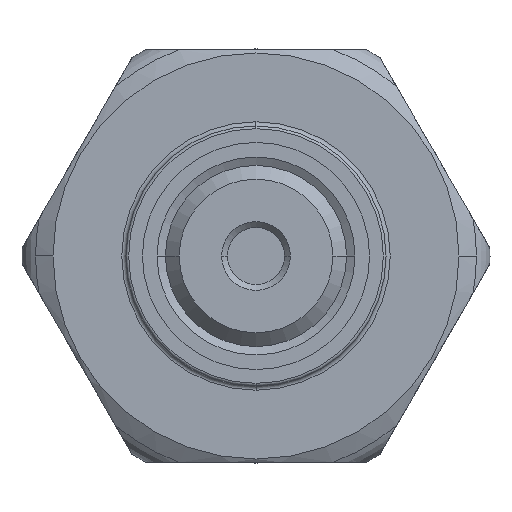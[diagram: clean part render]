
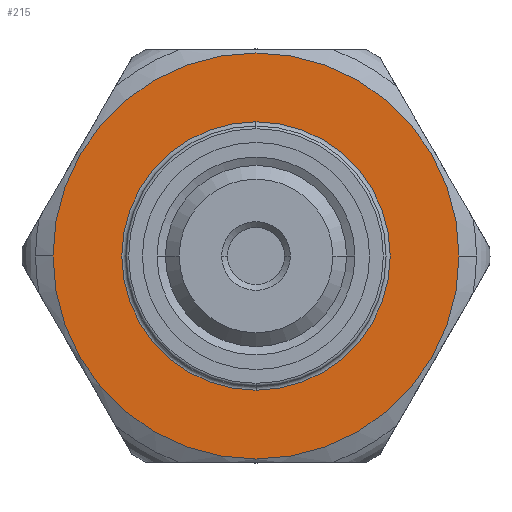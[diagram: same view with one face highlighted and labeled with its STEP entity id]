
A CAD part, front view. The second image highlights one B-rep face of the part: STEP entity #215.
In plain terms, the highlighted planar face has unit normal (0, -1, 0).
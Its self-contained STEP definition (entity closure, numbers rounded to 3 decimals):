
#215 = ADVANCED_FACE( '', ( #535, #536 ), #537, .T. );
#535 = FACE_OUTER_BOUND( '', #891, .T. );
#536 = FACE_BOUND( '', #892, .T. );
#537 = PLANE( '', #893 );
#891 = EDGE_LOOP( '', ( #2068, #2069 ) );
#892 = EDGE_LOOP( '', ( #2070, #2071, #2072 ) );
#893 = AXIS2_PLACEMENT_3D( '', #2073, #2074, #2075 );
#2068 = ORIENTED_EDGE( '', *, *, #2384, .F. );
#2069 = ORIENTED_EDGE( '', *, *, #2697, .F. );
#2070 = ORIENTED_EDGE( '', *, *, #2695, .T. );
#2071 = ORIENTED_EDGE( '', *, *, #2397, .T. );
#2072 = ORIENTED_EDGE( '', *, *, #2696, .T. );
#2073 = CARTESIAN_POINT( '', ( 12.25, 14., 0. ) );
#2074 = DIRECTION( '', ( 0., -1., 0. ) );
#2075 = DIRECTION( '', ( -1., 0., 0. ) );
#2384 = EDGE_CURVE( '', #2870, #2873, #2874, .T. );
#2397 = EDGE_CURVE( '', #2891, #2897, #2899, .T. );
#2695 = EDGE_CURVE( '', #3380, #2891, #3381, .T. );
#2696 = EDGE_CURVE( '', #2897, #3380, #3382, .T. );
#2697 = EDGE_CURVE( '', #2873, #2870, #3383, .T. );
#2870 = VERTEX_POINT( '', #3594 );
#2873 = VERTEX_POINT( '', #3598 );
#2874 = CIRCLE( '', #3599, 14.75 );
#2891 = VERTEX_POINT( '', #3644 );
#2897 = VERTEX_POINT( '', #3650 );
#2899 = CIRCLE( '', #3652, 9.75 );
#3380 = VERTEX_POINT( '', #4852 );
#3381 = CIRCLE( '', #4853, 9.75 );
#3382 = CIRCLE( '', #4854, 9.75 );
#3383 = CIRCLE( '', #4855, 14.75 );
#3594 = CARTESIAN_POINT( '', ( 14.75, 14., 0. ) );
#3598 = CARTESIAN_POINT( '', ( -14.75, 14., 0. ) );
#3599 = AXIS2_PLACEMENT_3D( '', #5054, #5055, #5056 );
#3644 = CARTESIAN_POINT( '', ( 0., 14., -9.75 ) );
#3650 = CARTESIAN_POINT( '', ( 0., 14., 9.75 ) );
#3652 = AXIS2_PLACEMENT_3D( '', #5082, #5083, #5084 );
#4852 = CARTESIAN_POINT( '', ( 9.75, 14., 0. ) );
#4853 = AXIS2_PLACEMENT_3D( '', #5658, #5659, #5660 );
#4854 = AXIS2_PLACEMENT_3D( '', #5661, #5662, #5663 );
#4855 = AXIS2_PLACEMENT_3D( '', #5664, #5665, #5666 );
#5054 = CARTESIAN_POINT( '', ( 0., 14., 0. ) );
#5055 = DIRECTION( '', ( 0., 1., 0. ) );
#5056 = DIRECTION( '', ( 1., 0., 0. ) );
#5082 = CARTESIAN_POINT( '', ( 0., 14., 0. ) );
#5083 = DIRECTION( '', ( 0., 1., 0. ) );
#5084 = DIRECTION( '', ( 1., 0., 0. ) );
#5658 = CARTESIAN_POINT( '', ( 0., 14., 0. ) );
#5659 = DIRECTION( '', ( 0., 1., 0. ) );
#5660 = DIRECTION( '', ( 1., 0., 0. ) );
#5661 = CARTESIAN_POINT( '', ( 0., 14., 0. ) );
#5662 = DIRECTION( '', ( 0., 1., 0. ) );
#5663 = DIRECTION( '', ( 1., 0., 0. ) );
#5664 = CARTESIAN_POINT( '', ( 0., 14., 0. ) );
#5665 = DIRECTION( '', ( 0., 1., 0. ) );
#5666 = DIRECTION( '', ( 1., 0., 0. ) );
